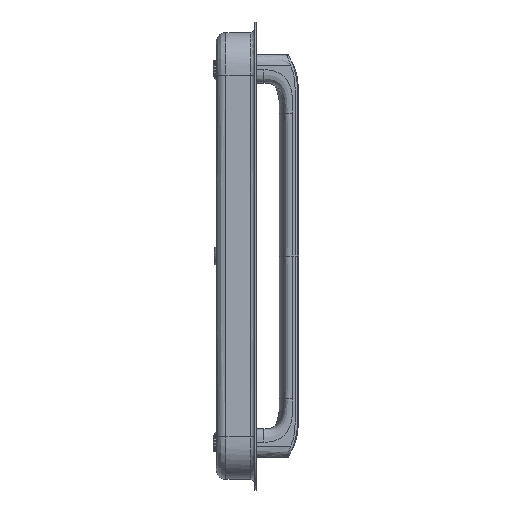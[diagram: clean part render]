
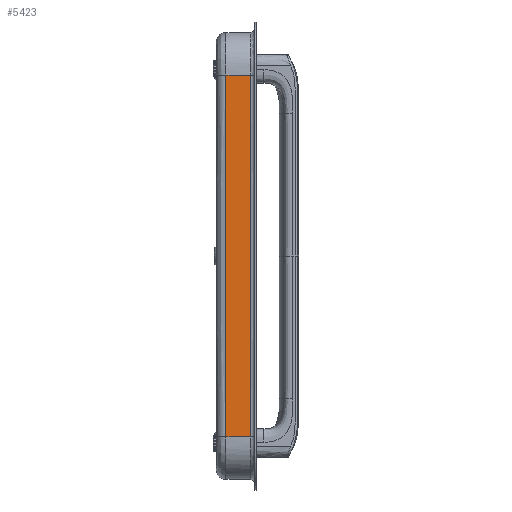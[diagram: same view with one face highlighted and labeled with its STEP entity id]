
A CAD part, left-side view. The second image highlights one B-rep face of the part: STEP entity #5423.
In plain terms, the highlighted free-form (B-spline) face has degree [2, 1] with [3, 2] control points.
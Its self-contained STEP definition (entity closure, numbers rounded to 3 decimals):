
#133=B_SPLINE_SURFACE_WITH_KNOTS('',2,1,((#14435,#14436),(#14437,#14438),
(#14439,#14440)),.UNSPECIFIED.,.F.,.F.,.F.,(3,3),(2,2),(-1.,0.),(0.,2.4),
 .UNSPECIFIED.);
#414=B_SPLINE_CURVE_WITH_KNOTS('',3,(#12789,#12790,#12791,#12792),
 .UNSPECIFIED.,.F.,.F.,(4,4),(0.,18.943),.UNSPECIFIED.);
#438=B_SPLINE_CURVE_WITH_KNOTS('',2,(#14443,#14444,#14445),
 .UNSPECIFIED.,.F.,.F.,(3,3),(0.,18.943),.UNSPECIFIED.);
#903=FACE_OUTER_BOUND('',#1247,.T.);
#1247=EDGE_LOOP('',(#4663,#4664,#4665,#4666));
#1707=LINE('',#14446,#2130);
#1708=LINE('',#14447,#2131);
#2130=VECTOR('',#6558,10.);
#2131=VECTOR('',#6559,10.);
#2630=VERTEX_POINT('',#12631);
#2631=VERTEX_POINT('',#12788);
#2649=VERTEX_POINT('',#14441);
#2650=VERTEX_POINT('',#14442);
#3304=EDGE_CURVE('',#2631,#2630,#414,.T.);
#3345=EDGE_CURVE('',#2649,#2650,#438,.T.);
#3346=EDGE_CURVE('',#2650,#2631,#1707,.T.);
#3347=EDGE_CURVE('',#2630,#2649,#1708,.T.);
#4663=ORIENTED_EDGE('',*,*,#3345,.T.);
#4664=ORIENTED_EDGE('',*,*,#3346,.T.);
#4665=ORIENTED_EDGE('',*,*,#3304,.T.);
#4666=ORIENTED_EDGE('',*,*,#3347,.T.);
#5423=ADVANCED_FACE('',(#903),#133,.T.);
#6558=DIRECTION('',(0.,0.,1.));
#6559=DIRECTION('',(0.,0.,-1.));
#12631=CARTESIAN_POINT('',(153.771,410.458,-2.));
#12788=CARTESIAN_POINT('',(153.771,221.027,-2.));
#12789=CARTESIAN_POINT('Ctrl Pts',(153.771,221.027,-2.));
#12790=CARTESIAN_POINT('Ctrl Pts',(153.771,284.171,-2.));
#12791=CARTESIAN_POINT('Ctrl Pts',(153.771,347.315,-2.));
#12792=CARTESIAN_POINT('Ctrl Pts',(153.771,410.458,-2.));
#14435=CARTESIAN_POINT('Ctrl Pts',(153.771,221.027,0.));
#14436=CARTESIAN_POINT('Ctrl Pts',(153.771,221.027,-24.));
#14437=CARTESIAN_POINT('Ctrl Pts',(153.771,315.743,0.));
#14438=CARTESIAN_POINT('Ctrl Pts',(153.771,315.743,-24.));
#14439=CARTESIAN_POINT('Ctrl Pts',(153.771,410.458,0.));
#14440=CARTESIAN_POINT('Ctrl Pts',(153.771,410.458,-24.));
#14441=CARTESIAN_POINT('',(153.771,410.458,-15.));
#14442=CARTESIAN_POINT('',(153.771,221.027,-15.));
#14443=CARTESIAN_POINT('Ctrl Pts',(153.771,410.458,-15.));
#14444=CARTESIAN_POINT('Ctrl Pts',(153.771,315.743,-15.));
#14445=CARTESIAN_POINT('Ctrl Pts',(153.771,221.027,-15.));
#14446=CARTESIAN_POINT('',(153.771,221.027,-15.));
#14447=CARTESIAN_POINT('',(153.771,410.458,-2.));
